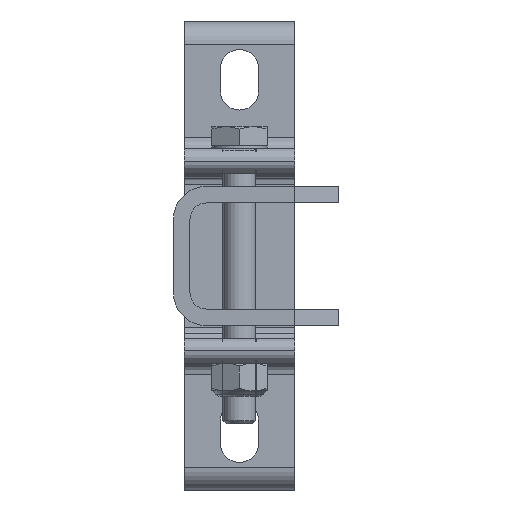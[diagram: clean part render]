
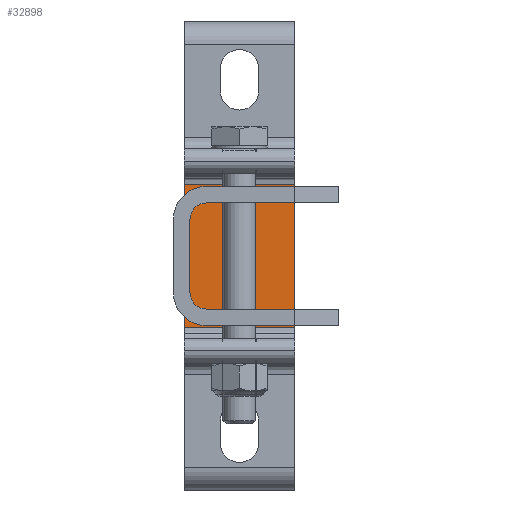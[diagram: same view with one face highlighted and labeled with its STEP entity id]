
A CAD part, front view. The second image highlights one B-rep face of the part: STEP entity #32898.
In plain terms, the highlighted planar face has unit normal (0, -1, 0) as drawn and (0, 1, 0) by its records, which use the part's own axes.
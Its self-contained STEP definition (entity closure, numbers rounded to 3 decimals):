
#1562 = DIRECTION ( 'NONE',  ( -1., 0., 0. ) ) ;
#3138 = CARTESIAN_POINT ( 'NONE',  ( 13., 5.5, 10. ) ) ;
#3452 = VECTOR ( 'NONE', #1562, 1000. ) ;
#3531 = CARTESIAN_POINT ( 'NONE',  ( 13., 5.5, -10. ) ) ;
#3759 = FACE_OUTER_BOUND ( 'NONE', #49585, .T. ) ;
#4354 = VERTEX_POINT ( 'NONE', #46800 ) ;
#4794 = CARTESIAN_POINT ( 'NONE',  ( -15., 5.5, 10. ) ) ;
#5746 = EDGE_CURVE ( 'NONE', #4354, #32635, #41440, .T. ) ;
#6218 = DIRECTION ( 'NONE',  ( 0., 0., -1. ) ) ;
#6353 = LINE ( 'NONE', #4794, #3452 ) ;
#7268 = EDGE_CURVE ( 'NONE', #32635, #43734, #46863, .T. ) ;
#8615 = DIRECTION ( 'NONE',  ( 0., 0., -1. ) ) ;
#9902 = DIRECTION ( 'NONE',  ( 0., 0., 1. ) ) ;
#10894 = DIRECTION ( 'NONE',  ( -1., 0., 0. ) ) ;
#19744 = CARTESIAN_POINT ( 'NONE',  ( -15., 5.5, -10. ) ) ;
#19934 = VERTEX_POINT ( 'NONE', #3138 ) ;
#23285 = ORIENTED_EDGE ( 'NONE', *, *, #24763, .T. ) ;
#23475 = VECTOR ( 'NONE', #10894, 1000. ) ;
#24763 = EDGE_CURVE ( 'NONE', #19934, #4354, #45295, .T. ) ;
#25154 = CARTESIAN_POINT ( 'NONE',  ( -13., 5.5, 10. ) ) ;
#27469 = ORIENTED_EDGE ( 'NONE', *, *, #5746, .T. ) ;
#27955 = DIRECTION ( 'NONE',  ( 0., -1., 0. ) ) ;
#29818 = EDGE_CURVE ( 'NONE', #19934, #43734, #6353, .T. ) ;
#30830 = ORIENTED_EDGE ( 'NONE', *, *, #7268, .T. ) ;
#32635 = VERTEX_POINT ( 'NONE', #34366 ) ;
#32898 = ADVANCED_FACE ( 'NONE', ( #3759 ), #39979, .F. ) ;
#33164 = CARTESIAN_POINT ( 'NONE',  ( -13., 5.5, 10. ) ) ;
#34366 = CARTESIAN_POINT ( 'NONE',  ( -13., 5.5, -10. ) ) ;
#39244 = AXIS2_PLACEMENT_3D ( 'NONE', #48013, #27955, #6218 ) ;
#39787 = ORIENTED_EDGE ( 'NONE', *, *, #29818, .F. ) ;
#39979 = PLANE ( 'NONE',  #39244 ) ;
#41440 = LINE ( 'NONE', #19744, #23475 ) ;
#43681 = VECTOR ( 'NONE', #9902, 1000. ) ;
#43734 = VERTEX_POINT ( 'NONE', #33164 ) ;
#44385 = VECTOR ( 'NONE', #8615, 1000. ) ;
#45295 = LINE ( 'NONE', #3531, #44385 ) ;
#46800 = CARTESIAN_POINT ( 'NONE',  ( 13., 5.5, -10. ) ) ;
#46863 = LINE ( 'NONE', #25154, #43681 ) ;
#48013 = CARTESIAN_POINT ( 'NONE',  ( -15., 5.5, 10. ) ) ;
#49585 = EDGE_LOOP ( 'NONE', ( #27469, #30830, #39787, #23285 ) ) ;
